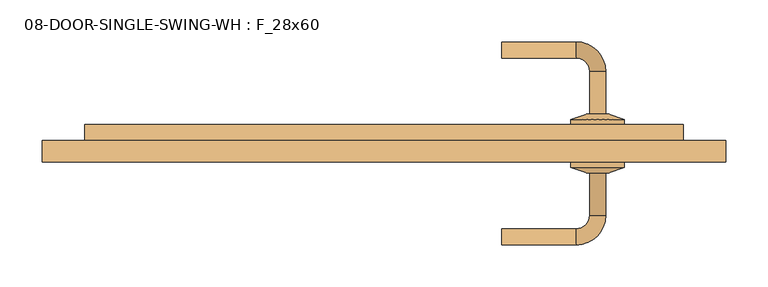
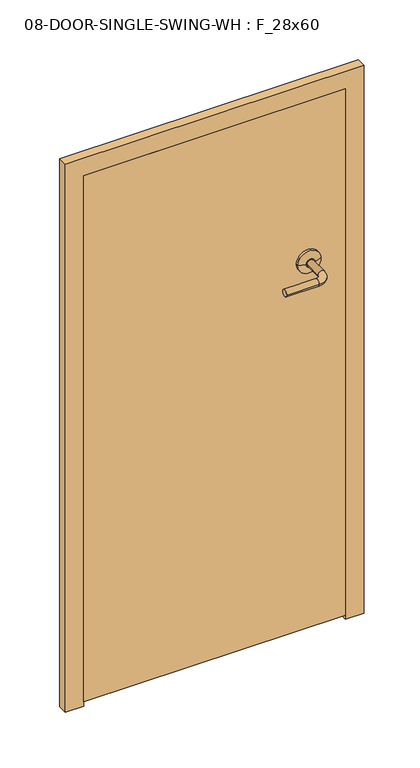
"""IFC4 building model written with IfcOpenShell, lengths in millimetres: door geometry, 08-DOOR-SINGLE-SWING-WH : F_28x60."""

from ifc_helpers import new_model, si_unit, point, frame, origin, place, context, project, spatial, polyline, circle_curve, ellipse_curve, trimmed, outline, extrude, source, transform, mapped, element, save
from ifc_brep_helpers import plane_surface, cylinder_surface, revolved_surface, advanced_brep


def door_08_door_single_swing_wh_f_28x60_203d07ed(model_context):
    return source(origin(), model_context, "Body", "SolidModel", [
        advanced_brep(
        [(262.8403202, 44.45, 1066.8), (281.8903202, 44.45, 1066.8), (262.8403202, 95.25, 1066.8), (281.8903202, 95.25, 1066.8), (246.9653202, 111.125, 1066.8), (246.9653202, 130.175, 1066.8), (158.0653202, 111.125, 1066.8), (158.0653202, 130.175, 1066.8)],
        [
            (0, 1, circle_curve(frame((272.3653202, 44.45, 1066.8), z_axis=(0.0, -1.0, 0.0), x_axis=(1.0, 0.0, 0.0)), 9.525)),
            (1, 0, circle_curve(frame((272.3653202, 44.45, 1066.8), z_axis=(0.0, -1.0, 0.0), x_axis=(1.0, 0.0, 0.0)), 9.525)),
            (0, 2),
            (2, 3, circle_curve(frame((272.3653202, 95.25, 1066.8), z_axis=(0.0, -1.0, 0.0), x_axis=(1.0, 0.0, 0.0)), 9.525)),
            (3, 1),
            (3, 2, circle_curve(frame((272.3653202, 95.25, 1066.8), z_axis=(0.0, -1.0, 0.0), x_axis=(1.0, 0.0, 0.0)), 9.525)),
            (4, 5, circle_curve(frame((246.9653202, 120.65, 1066.8), z_axis=(1.0, 0.0, 0.0), x_axis=(0.0, 1.0, 0.0)), 9.525)),
            (5, 3, circle_curve(frame((246.9653202, 95.25, 1066.8), z_axis=(0.0, 0.0, -1.0), x_axis=(1.0, 0.0, 0.0)), 34.925)),
            (2, 4, circle_curve(frame((246.9653202, 95.25, 1066.8), z_axis=(0.0, 0.0, 1.0), x_axis=(1.0, 0.0, 0.0)), 15.875)),
            (5, 4, circle_curve(frame((246.9653202, 120.65, 1066.8), z_axis=(1.0, 0.0, 0.0), x_axis=(0.0, 1.0, 0.0)), 9.525)),
            (6, 7, circle_curve(frame((158.0653202, 120.65, 1066.8), z_axis=(-1.0, 0.0, 0.0), x_axis=(0.0, 1.0, 0.0)), 9.525)),
            (7, 6, circle_curve(frame((158.0653202, 120.65, 1066.8), z_axis=(-1.0, 0.0, 0.0), x_axis=(0.0, 1.0, 0.0)), 9.525)),
            (4, 6),
            (7, 5),
        ],
        [
            plane_surface(frame((272.3653202, 44.45, 1066.8), z_axis=(0.0, -1.0, 0.0), x_axis=(0.0, 0.0, 1.0))),
            cylinder_surface(frame((272.3653202, 44.45, 1066.8), z_axis=(0.0, -1.0, 0.0), x_axis=(1.0, 0.0, 0.0)), 9.525),
            revolved_surface(trimmed(ellipse_curve(frame((272.3653202, 95.25, 1066.8), z_axis=(0.0, 1.0, 0.0), x_axis=(1.0, 0.0, 0.0)), 9.525, 9.525), [point((281.8903202, 95.25, 1066.8))], [point((262.8403202, 95.25, 1066.8))], True, "CARTESIAN"), (246.9653202, 95.25, 1066.8), (0.0, 0.0, -1.0)),
            revolved_surface(trimmed(ellipse_curve(frame((272.3653202, 95.25, 1066.8), z_axis=(0.0, 1.0, 0.0), x_axis=(1.0, 0.0, 0.0)), 9.525, 9.525), [point((262.8403202, 95.25, 1066.8))], [point((281.8903202, 95.25, 1066.8))], True, "CARTESIAN"), (246.9653202, 95.25, 1066.8), (0.0, 0.0, -1.0)),
            plane_surface(frame((158.0653202, 120.65, 1066.8), z_axis=(-1.0, 0.0, 0.0), x_axis=(0.0, 0.0, 1.0))),
            cylinder_surface(frame((246.9653202, 120.65, 1066.8), z_axis=(1.0, 0.0, 0.0), x_axis=(0.0, 1.0, 0.0)), 9.525),
        ],
        [
            (0, [[1, 2]]),
            (1, [[3, 4, 5, -1]]),
            (1, [[-5, 6, -3, -2]]),
            (2, [[7, 8, -4, 9]]),
            (3, [[10, -9, -6, -8]]),
            (4, [[11, 12]]),
            (5, [[13, -12, 14, -7]]),
            (5, [[-14, -11, -13, -10]]),
        ],
    ),
        advanced_brep(
        [(272.3653202, 31.75, 1066.8), (240.6153202, 31.75, 1066.8), (304.1153202, 31.75, 1066.8), (240.6153202, 38.1, 1066.8), (304.1153202, 38.1, 1066.8), (259.6653202, 44.45, 1066.8), (285.0653202, 44.45, 1066.8), (272.3653202, 44.45, 1066.8)],
        [
            (0, 1),
            (1, 2, circle_curve(frame((272.3653202, 31.75, 1066.8), z_axis=(0.0, -1.0, 0.0), x_axis=(1.0, 0.0, 0.0)), 31.75)),
            (2, 0),
            (2, 1, circle_curve(frame((272.3653202, 31.75, 1066.8), z_axis=(0.0, -1.0, 0.0), x_axis=(1.0, 0.0, 0.0)), 31.75)),
            (1, 3),
            (3, 4, circle_curve(frame((272.3653202, 38.1, 1066.8), z_axis=(0.0, -1.0, 0.0), x_axis=(1.0, 0.0, 0.0)), 31.75)),
            (4, 2),
            (4, 3, circle_curve(frame((272.3653202, 38.1, 1066.8), z_axis=(0.0, -1.0, 0.0), x_axis=(1.0, 0.0, 0.0)), 31.75)),
            (3, 5),
            (5, 6, circle_curve(frame((272.3653202, 44.45, 1066.8), z_axis=(0.0, -1.0, 0.0), x_axis=(1.0, 0.0, 0.0)), 12.7)),
            (6, 4),
            (6, 5, circle_curve(frame((272.3653202, 44.45, 1066.8), z_axis=(0.0, -1.0, 0.0), x_axis=(1.0, 0.0, 0.0)), 12.7)),
            (5, 7),
            (7, 6),
        ],
        [
            plane_surface(frame((272.3653202, 31.75, 1066.8), z_axis=(0.0, -1.0, 0.0), x_axis=(1.0, 0.0, 0.0))),
            cylinder_surface(frame((272.3653202, 41.3581496, 1066.8), z_axis=(0.0, -1.0, 0.0), x_axis=(1.0, 0.0, 0.0)), 31.75),
            revolved_surface(polyline([(285.0653202, 44.45, 1066.8), (304.1153202, 38.1, 1066.8)]), (272.3653202, 41.3581496, 1066.8), (0.0, -1.0, 0.0)),
            plane_surface(frame((272.3653202, 44.45, 1066.8), z_axis=(0.0, 1.0, 0.0), x_axis=(1.0, 0.0, 0.0))),
        ],
        [
            (0, [[1, 2, 3]]),
            (0, [[-3, 4, -1]]),
            (1, [[5, 6, 7, -2]]),
            (1, [[-7, 8, -5, -4]]),
            (2, [[9, 10, 11, -6]]),
            (2, [[-11, 12, -9, -8]]),
            (3, [[13, 14, -10]]),
            (3, [[-14, -13, -12]]),
        ],
    ),
        advanced_brep(
        [(281.8903202, -25.4, 1066.8), (262.8403202, -25.4, 1066.8), (262.8403202, -76.2, 1066.8), (281.8903202, -76.2, 1066.8), (246.9653202, -92.075, 1066.8), (246.9653202, -111.125, 1066.8), (158.0653202, -111.125, 1066.8), (158.0653202, -92.075, 1066.8)],
        [
            (0, 1, circle_curve(frame((272.3653202, -25.4, 1066.8), z_axis=(0.0, 1.0, 0.0), x_axis=(-1.0, 0.0, 0.0)), 9.525)),
            (1, 0, circle_curve(frame((272.3653202, -25.4, 1066.8), z_axis=(0.0, 1.0, 0.0), x_axis=(-1.0, 0.0, 0.0)), 9.525)),
            (1, 2),
            (2, 3, circle_curve(frame((272.3653202, -76.2, 1066.8), z_axis=(0.0, 1.0, 0.0), x_axis=(-1.0, 0.0, 0.0)), 9.525)),
            (3, 0),
            (3, 2, circle_curve(frame((272.3653202, -76.2, 1066.8), z_axis=(0.0, 1.0, 0.0), x_axis=(-1.0, 0.0, 0.0)), 9.525)),
            (4, 5, circle_curve(frame((246.9653202, -101.6, 1066.8), z_axis=(1.0, 0.0, 0.0), x_axis=(0.0, 1.0, 0.0)), 9.525)),
            (5, 3, circle_curve(frame((246.9653202, -76.2, 1066.8), z_axis=(0.0, 0.0, 1.0), x_axis=(1.0, 0.0, 0.0)), 34.925)),
            (2, 4, circle_curve(frame((246.9653202, -76.2, 1066.8), z_axis=(0.0, 0.0, -1.0), x_axis=(1.0, 0.0, 0.0)), 15.875)),
            (5, 4, circle_curve(frame((246.9653202, -101.6, 1066.8), z_axis=(1.0, 0.0, 0.0), x_axis=(0.0, 1.0, 0.0)), 9.525)),
            (6, 7, circle_curve(frame((158.0653202, -101.6, 1066.8), z_axis=(-1.0, 0.0, 0.0), x_axis=(0.0, 1.0, 0.0)), 9.525)),
            (7, 6, circle_curve(frame((158.0653202, -101.6, 1066.8), z_axis=(-1.0, 0.0, 0.0), x_axis=(0.0, 1.0, 0.0)), 9.525)),
            (4, 7),
            (6, 5),
        ],
        [
            plane_surface(frame((272.3653202, -25.4, 1066.8), z_axis=(0.0, 1.0, 0.0), x_axis=(0.0, 0.0, 1.0))),
            cylinder_surface(frame((272.3653202, -25.4, 1066.8), z_axis=(0.0, 1.0, 0.0), x_axis=(-1.0, 0.0, 0.0)), 9.525),
            revolved_surface(trimmed(ellipse_curve(frame((272.3653202, -76.2, 1066.8), z_axis=(0.0, -1.0, 0.0), x_axis=(-1.0, 0.0, 0.0)), 9.525, 9.525), [point((281.8903202, -76.2, 1066.8))], [point((262.8403202, -76.2, 1066.8))], True, "CARTESIAN"), (246.9653202, -76.2, 1066.8), (0.0, 0.0, 1.0)),
            revolved_surface(trimmed(ellipse_curve(frame((272.3653202, -76.2, 1066.8), z_axis=(0.0, -1.0, 0.0), x_axis=(-1.0, 0.0, 0.0)), 9.525, 9.525), [point((262.8403202, -76.2, 1066.8))], [point((281.8903202, -76.2, 1066.8))], True, "CARTESIAN"), (246.9653202, -76.2, 1066.8), (0.0, 0.0, 1.0)),
            plane_surface(frame((158.0653202, -101.6, 1066.8), z_axis=(-1.0, 0.0, 0.0), x_axis=(0.0, 0.0, 1.0))),
            cylinder_surface(frame((246.9653202, -101.6, 1066.8), z_axis=(1.0, 0.0, 0.0), x_axis=(0.0, 1.0, 0.0)), 9.525),
        ],
        [
            (0, [[1, 2]]),
            (1, [[3, 4, 5, -2]]),
            (1, [[-5, 6, -3, -1]]),
            (2, [[7, 8, -4, 9]]),
            (3, [[10, -9, -6, -8]]),
            (4, [[11, 12]]),
            (5, [[13, -11, 14, -7]]),
            (5, [[-14, -12, -13, -10]]),
        ],
    ),
        advanced_brep(
        [(240.6153202, -12.7, 1066.8), (272.3653202, -12.7, 1066.8), (304.1153202, -12.7, 1066.8), (240.6153202, -19.05, 1066.8), (304.1153202, -19.05, 1066.8), (259.6653202, -25.4, 1066.8), (285.0653202, -25.4, 1066.8), (272.3653202, -25.4, 1066.8)],
        [
            (0, 1),
            (1, 2),
            (2, 0, circle_curve(frame((272.3653202, -12.7, 1066.8), z_axis=(0.0, 1.0, 0.0), x_axis=(1.0, 0.0, 0.0)), 31.75)),
            (0, 2, circle_curve(frame((272.3653202, -12.7, 1066.8), z_axis=(0.0, 1.0, 0.0), x_axis=(1.0, 0.0, 0.0)), 31.75)),
            (3, 0),
            (2, 4),
            (4, 3, circle_curve(frame((272.3653202, -19.05, 1066.8), z_axis=(0.0, 1.0, 0.0), x_axis=(1.0, 0.0, 0.0)), 31.75)),
            (3, 4, circle_curve(frame((272.3653202, -19.05, 1066.8), z_axis=(0.0, 1.0, 0.0), x_axis=(1.0, 0.0, 0.0)), 31.75)),
            (5, 3),
            (4, 6),
            (6, 5, circle_curve(frame((272.3653202, -25.4, 1066.8), z_axis=(0.0, 1.0, 0.0), x_axis=(1.0, 0.0, 0.0)), 12.7)),
            (5, 6, circle_curve(frame((272.3653202, -25.4, 1066.8), z_axis=(0.0, 1.0, 0.0), x_axis=(1.0, 0.0, 0.0)), 12.7)),
            (7, 5),
            (6, 7),
        ],
        [
            plane_surface(frame((272.3653202, -12.7, 1066.8), z_axis=(0.0, 1.0, 0.0), x_axis=(1.0, 0.0, 0.0))),
            cylinder_surface(frame((272.3653202, -22.3081496, 1066.8), z_axis=(0.0, -1.0, 0.0), x_axis=(1.0, 0.0, 0.0)), 31.75),
            revolved_surface(polyline([(304.1153202, -19.05, 1066.8), (285.0653202, -25.4, 1066.8)]), (272.3653202, -22.3081496, 1066.8), (0.0, -1.0, 0.0)),
            plane_surface(frame((272.3653202, -25.4, 1066.8), z_axis=(0.0, -1.0, 0.0), x_axis=(1.0, 0.0, 0.0))),
        ],
        [
            (0, [[1, 2, 3]]),
            (0, [[-2, -1, 4]]),
            (1, [[5, -3, 6, 7]]),
            (1, [[-6, -4, -5, 8]]),
            (2, [[9, -7, 10, 11]]),
            (2, [[-10, -8, -9, 12]]),
            (3, [[13, -11, 14]]),
            (3, [[-14, -12, -13]]),
        ],
    ),
        extrude(outline(polyline([(373.9653202, 31.75), (373.9653202, -12.7), (-337.2346798, -12.7), (-337.2346798, 31.75), (373.9653202, 31.75)])), frame((0.0, 0.0, 12.7), z_axis=(0.0, 0.0, 1.0), x_axis=(1.0, 0.0, 0.0)), (0.0, 0.0, 1.0), 1511.3),
        extrude(outline(polyline([(0.0, 424.7653202), (1574.8, 424.7653202), (1574.8, -388.0346798), (0.0, -388.0346798), (0.0, -337.2346798), (1524.0, -337.2346798), (1524.0, 373.9653202), (0.0, 373.9653202), (0.0, 424.7653202)])), frame((0.0, -12.7, 0.0), z_axis=(0.0, 1.0, 0.0), x_axis=(0.0, 0.0, 1.0)), (0.0, 0.0, 1.0), 25.4),
    ])


if __name__ == "__main__":
    model = new_model("IFC4")
    model_context = context("Model", 3, world=origin())
    ifc_project = project(units=[si_unit("LENGTHUNIT", "METRE", prefix="MILLI")], contexts=[model_context])
    site = spatial("IfcSite", under=ifc_project)
    building = spatial("IfcBuilding", under=site)
    placement = place(None, origin())
    door_08_door_single_swing_wh_f_28x60_shape = door_08_door_single_swing_wh_f_28x60_203d07ed(model_context)
    element("IfcDoor", 1, ObjectType="08-DOOR-SINGLE-SWING-WH : F_28x60", at=placement, inside=building, context=model_context, shape_type="MappedRepresentation", body=[
        mapped(door_08_door_single_swing_wh_f_28x60_shape, transform((0.0, 0.0, 0.0), x_axis=(1.0, 0.0, 0.0), y_axis=(0.0, 1.0, 0.0), z_axis=(0.0, 0.0, 1.0))),
    ])
    save(model, "model.ifc")
